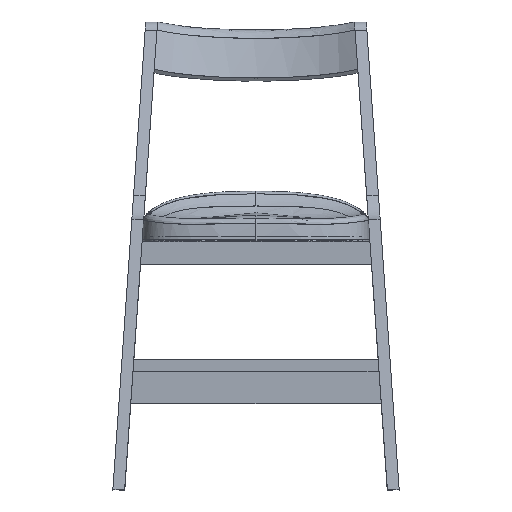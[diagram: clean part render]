
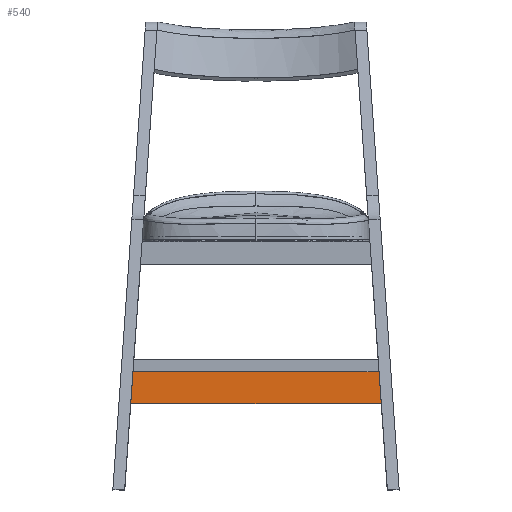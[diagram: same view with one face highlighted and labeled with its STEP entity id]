
A CAD part, front view. The second image highlights one B-rep face of the part: STEP entity #540.
In plain terms, the highlighted free-form (B-spline) face has degree [1, 1] with [2, 2] control points.
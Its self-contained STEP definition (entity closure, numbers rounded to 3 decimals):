
#540=ADVANCED_FACE('',(#650),#4825,.T.);
#650=FACE_OUTER_BOUND('',#760,.T.);
#760=EDGE_LOOP('',(#909,#910,#911,#912));
#909=ORIENTED_EDGE('',*,*,#2957,.T.);
#910=ORIENTED_EDGE('',*,*,#2958,.T.);
#911=ORIENTED_EDGE('',*,*,#2959,.T.);
#912=ORIENTED_EDGE('',*,*,#2960,.T.);
#1422=PCURVE('',#4825,#1935);
#1423=PCURVE('',#4825,#1936);
#1424=PCURVE('',#4825,#1937);
#1425=PCURVE('',#4825,#1938);
#1935=DEFINITIONAL_REPRESENTATION('',(#3511),#53808);
#1936=DEFINITIONAL_REPRESENTATION('',(#3513),#53808);
#1937=DEFINITIONAL_REPRESENTATION('',(#3515),#53808);
#1938=DEFINITIONAL_REPRESENTATION('',(#3517),#53808);
#2448=SURFACE_CURVE('',#3510,(#1422),.PCURVE_S1.);
#2449=SURFACE_CURVE('',#3512,(#1423),.PCURVE_S1.);
#2450=SURFACE_CURVE('',#3514,(#1424),.PCURVE_S1.);
#2451=SURFACE_CURVE('',#3516,(#1425),.PCURVE_S1.);
#2957=EDGE_CURVE('',#4354,#4353,#2448,.T.);
#2958=EDGE_CURVE('',#4353,#4355,#2449,.T.);
#2959=EDGE_CURVE('',#4355,#4356,#2450,.T.);
#2960=EDGE_CURVE('',#4356,#4354,#2451,.T.);
#3510=B_SPLINE_CURVE_WITH_KNOTS('',1,(#6641,#6642),.UNSPECIFIED.,.F.,.F.,
(2,2),(-417.795,0.),.UNSPECIFIED.);
#3511=B_SPLINE_CURVE_WITH_KNOTS('',1,(#6643,#6644),.UNSPECIFIED.,.F.,.F.,
(2,2),(-417.795,0.),.UNSPECIFIED.);
#3512=B_SPLINE_CURVE_WITH_KNOTS('',3,(#6645,#6646,#6647,#6648),
 .UNSPECIFIED.,.F.,.F.,(4,4),(-130.269,-75.134),
 .UNSPECIFIED.);
#3513=B_SPLINE_CURVE_WITH_KNOTS('',3,(#6649,#6650,#6651,#6652),
 .UNSPECIFIED.,.F.,.F.,(4,4),(-130.269,-75.134),
 .UNSPECIFIED.);
#3514=B_SPLINE_CURVE_WITH_KNOTS('',1,(#6653,#6654),.UNSPECIFIED.,.F.,.F.,
(2,2),(-425.487,0.),.UNSPECIFIED.);
#3515=B_SPLINE_CURVE_WITH_KNOTS('',1,(#6655,#6656),.UNSPECIFIED.,.F.,.F.,
(2,2),(-425.487,0.),.UNSPECIFIED.);
#3516=B_SPLINE_CURVE_WITH_KNOTS('',3,(#6657,#6658,#6659,#6660),
 .UNSPECIFIED.,.F.,.F.,(4,4),(-55.134,0.),.UNSPECIFIED.);
#3517=B_SPLINE_CURVE_WITH_KNOTS('',3,(#6661,#6662,#6663,#6664),
 .UNSPECIFIED.,.F.,.F.,(4,4),(-55.134,0.),.UNSPECIFIED.);
#4353=VERTEX_POINT('',#6637);
#4354=VERTEX_POINT('',#6638);
#4355=VERTEX_POINT('',#6639);
#4356=VERTEX_POINT('',#6640);
#4825=B_SPLINE_SURFACE_WITH_KNOTS('',1,1,((#6633,#6634),(#6635,#6636)),
 .UNSPECIFIED.,.F.,.F.,.F.,(2,2),(2,2),(-60.504,5.504),
(-518.429,-7.837),.UNSPECIFIED.);
#6633=CARTESIAN_POINT('',(12.144,198.584,140.693));
#6634=CARTESIAN_POINT('',(-498.447,198.584,140.693));
#6635=CARTESIAN_POINT('',(12.144,198.584,206.7));
#6636=CARTESIAN_POINT('',(-498.447,198.584,206.7));
#6637=CARTESIAN_POINT('',(-452.049,198.584,201.197));
#6638=CARTESIAN_POINT('',(-34.254,198.584,201.197));
#6639=CARTESIAN_POINT('',(-455.895,198.584,146.197));
#6640=CARTESIAN_POINT('',(-30.408,198.584,146.197));
#6641=CARTESIAN_POINT('',(-34.254,198.584,201.197));
#6642=CARTESIAN_POINT('',(-452.049,198.584,201.197));
#6643=CARTESIAN_POINT('',(0.,-472.031));
#6644=CARTESIAN_POINT('',(0.,-54.235));
#6645=CARTESIAN_POINT('',(-452.049,198.584,201.197));
#6646=CARTESIAN_POINT('',(-453.331,198.584,182.863));
#6647=CARTESIAN_POINT('',(-454.613,198.584,164.53));
#6648=CARTESIAN_POINT('',(-455.895,198.584,146.197));
#6649=CARTESIAN_POINT('',(0.,-54.235));
#6650=CARTESIAN_POINT('',(-18.333,-52.953));
#6651=CARTESIAN_POINT('',(-36.667,-51.671));
#6652=CARTESIAN_POINT('',(-55.,-50.389));
#6653=CARTESIAN_POINT('',(-455.895,198.584,146.197));
#6654=CARTESIAN_POINT('',(-30.408,198.584,146.197));
#6655=CARTESIAN_POINT('',(-55.,-50.389));
#6656=CARTESIAN_POINT('',(-55.,-475.876));
#6657=CARTESIAN_POINT('',(-30.408,198.584,146.197));
#6658=CARTESIAN_POINT('',(-31.69,198.584,164.53));
#6659=CARTESIAN_POINT('',(-32.972,198.584,182.863));
#6660=CARTESIAN_POINT('',(-34.254,198.584,201.197));
#6661=CARTESIAN_POINT('',(-55.,-475.876));
#6662=CARTESIAN_POINT('',(-36.667,-474.594));
#6663=CARTESIAN_POINT('',(-18.333,-473.313));
#6664=CARTESIAN_POINT('',(0.,-472.031));
#53808=(
GEOMETRIC_REPRESENTATION_CONTEXT(2)
PARAMETRIC_REPRESENTATION_CONTEXT()
REPRESENTATION_CONTEXT('pspace','')
);
